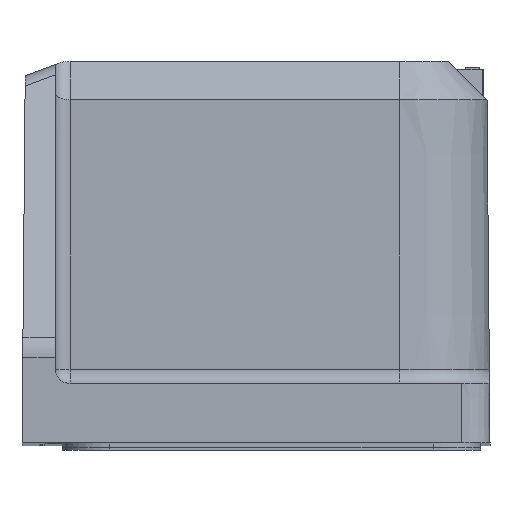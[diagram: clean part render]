
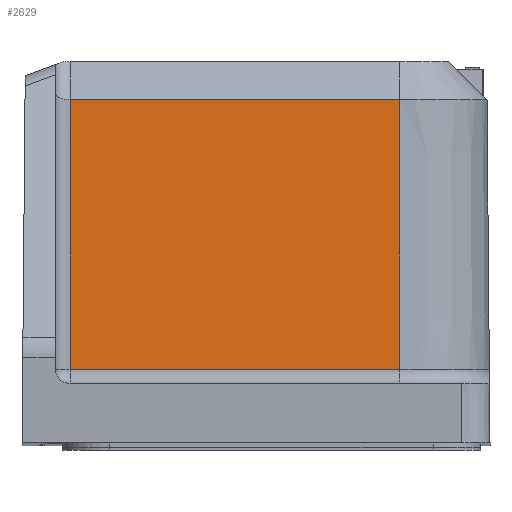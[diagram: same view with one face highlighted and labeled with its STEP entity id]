
A CAD part, top view. The second image highlights one B-rep face of the part: STEP entity #2629.
In plain terms, the highlighted planar face has unit normal (0, 0.009, 1).
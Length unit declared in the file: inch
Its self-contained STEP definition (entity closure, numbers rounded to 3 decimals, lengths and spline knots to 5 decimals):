
#444=DIRECTION('',(0.,1.,-0.009));
#445=VECTOR('',#444,0.5673);
#446=CARTESIAN_POINT('',(-0.391,0.15573,1.06064));
#447=LINE('',#446,#445);
#448=DIRECTION('',(1.,0.,0.));
#449=VECTOR('',#448,0.693);
#450=CARTESIAN_POINT('',(-0.391,0.723,1.05569));
#451=LINE('',#450,#449);
#452=DIRECTION('',(0.,-1.,0.009));
#453=VECTOR('',#452,0.5673);
#454=CARTESIAN_POINT('',(0.302,0.723,1.05569));
#455=LINE('',#454,#453);
#456=DIRECTION('',(-1.,0.,0.));
#457=VECTOR('',#456,0.693);
#458=CARTESIAN_POINT('',(0.302,0.15573,1.06064));
#459=LINE('',#458,#457);
#1756=CARTESIAN_POINT('',(0.302,0.723,1.05569));
#1757=VERTEX_POINT('',#1756);
#1839=CARTESIAN_POINT('',(0.302,0.15573,1.06064));
#1841=VERTEX_POINT('',#1839);
#1842=CARTESIAN_POINT('',(-0.391,0.15573,1.06064));
#1843=VERTEX_POINT('',#1842);
#2104=CARTESIAN_POINT('',(-0.391,0.723,1.05569));
#2106=VERTEX_POINT('',#2104);
#2617=CARTESIAN_POINT('',(-1.53637,0.,1.062));
#2618=DIRECTION('',(0.,0.009,1.));
#2619=DIRECTION('',(-1.,0.,0.));
#2620=AXIS2_PLACEMENT_3D('',#2617,#2618,#2619);
#2621=PLANE('',#2620);
#2622=ORIENTED_EDGE('',*,*,#2513,.T.);
#2623=ORIENTED_EDGE('',*,*,#2484,.T.);
#2625=ORIENTED_EDGE('',*,*,#2624,.T.);
#2626=ORIENTED_EDGE('',*,*,#2607,.T.);
#2627=EDGE_LOOP('',(#2622,#2623,#2625,#2626));
#2628=FACE_OUTER_BOUND('',#2627,.F.);
#2629=ADVANCED_FACE('',(#2628),#2621,.T.);
#2484=EDGE_CURVE('',#2106,#1757,#451,.T.);
#2513=EDGE_CURVE('',#1843,#2106,#447,.T.);
#2607=EDGE_CURVE('',#1841,#1843,#459,.T.);
#2624=EDGE_CURVE('',#1757,#1841,#455,.T.);
